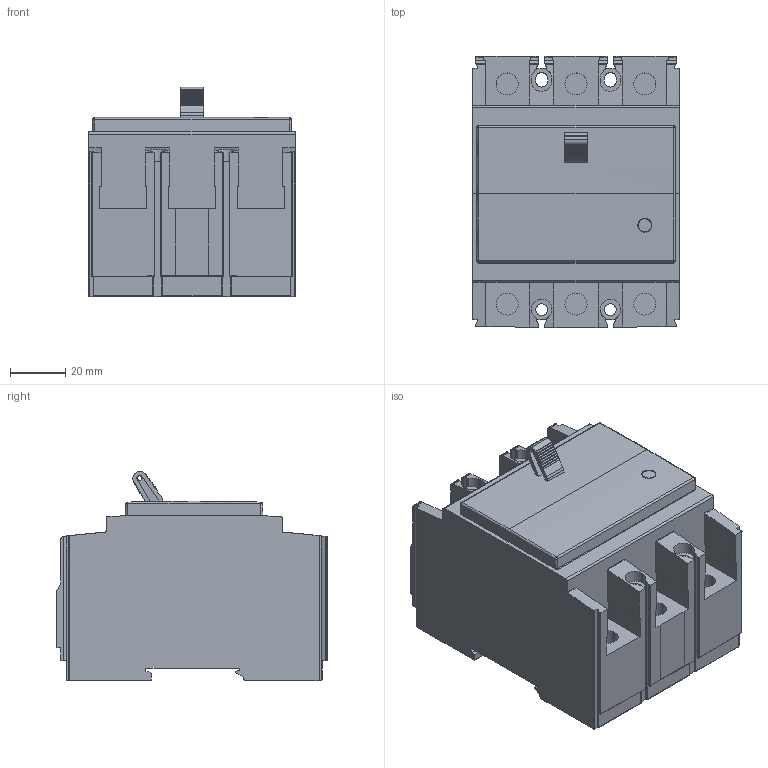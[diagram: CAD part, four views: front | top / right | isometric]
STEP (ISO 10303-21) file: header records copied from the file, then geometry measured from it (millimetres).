
FILE_DESCRIPTION (( 'STEP AP203' ), '1' );
FILE_NAME ('BE Type 3P (60A 檜鼻).STEP', '2018-01-04T00:38:04', ( '' ), ( '' ), 'SwSTEP 2.0', 'SolidWorks 2015', '' );
FILE_SCHEMA (( 'CONFIG_CONTROL_DESIGN' ));
Length unit declared in the file: millimetre
Products named in the file (1): BE Type 3P (60A 檜鼻)
Bounding box: 75 x 98.47 x 76.11 mm (x, y, z)
Volume: 377120.3 mm3; surface area: 50185.3 mm2
Topology: 1 solids, 1 shells, 422 faces, 1219 edges, 808 vertices
Faces by surface type: plane 265, cylinder 137, bspline 12, sphere 4, torus 4
Entity records: 14636 total; most frequent: CARTESIAN_POINT 3418, ORIENTED_EDGE 2438, DIRECTION 2221, EDGE_CURVE 1219, LINE 839, VECTOR 839, VERTEX_POINT 808, AXIS2_PLACEMENT_3D 691
